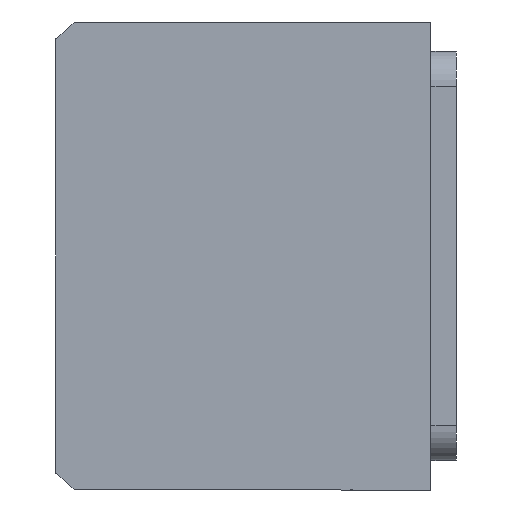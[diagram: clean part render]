
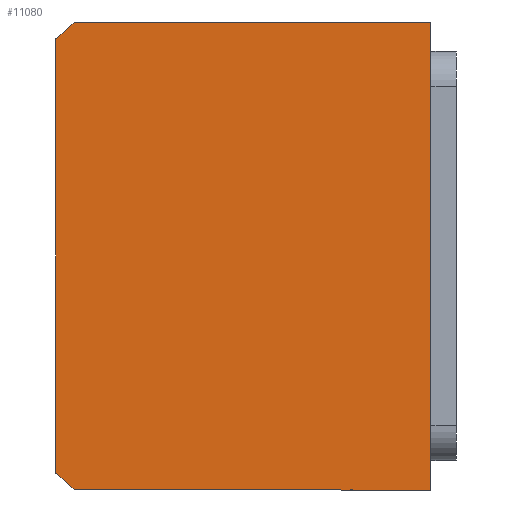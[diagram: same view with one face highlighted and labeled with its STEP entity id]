
A CAD part, front view. The second image highlights one B-rep face of the part: STEP entity #11080.
In plain terms, the highlighted planar face has unit normal (0, -1, 0) as drawn and (0, 0, -1) by its records, which use the part's own axes.
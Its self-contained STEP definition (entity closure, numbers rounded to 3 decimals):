
#245 = EDGE_CURVE ( 'NONE', #6919, #709, #9550, .T. ) ;
#346 = ORIENTED_EDGE ( 'NONE', *, *, #5847, .F. ) ;
#709 = VERTEX_POINT ( 'NONE', #9677 ) ;
#1515 = EDGE_CURVE ( 'NONE', #12056, #4558, #8215, .T. ) ;
#1618 = CARTESIAN_POINT ( 'NONE',  ( 0., 0., 0. ) ) ;
#2342 = LINE ( 'NONE', #7377, #2690 ) ;
#2408 = AXIS2_PLACEMENT_3D ( 'NONE', #1618, #9204, #2863 ) ;
#2612 = CARTESIAN_POINT ( 'NONE',  ( 0., -40.507, 0. ) ) ;
#2668 = ORIENTED_EDGE ( 'NONE', *, *, #12565, .F. ) ;
#2690 = VECTOR ( 'NONE', #12651, 1000. ) ;
#2705 = CARTESIAN_POINT ( 'NONE',  ( -40., -11.507, 0. ) ) ;
#2863 = DIRECTION ( 'NONE',  ( 1., 0., 0. ) ) ;
#2959 = CARTESIAN_POINT ( 'NONE',  ( -37.094, -75.507, 0. ) ) ;
#3202 = CARTESIAN_POINT ( 'NONE',  ( 40., -11.507, 0. ) ) ;
#3252 = VECTOR ( 'NONE', #8214, 1000. ) ;
#3702 = DIRECTION ( 'NONE',  ( 1., 0., 0. ) ) ;
#3764 = EDGE_CURVE ( 'NONE', #4558, #11126, #2342, .T. ) ;
#3869 = DIRECTION ( 'NONE',  ( 0., 0., 1. ) ) ;
#4490 = LINE ( 'NONE', #2705, #6647 ) ;
#4510 = CARTESIAN_POINT ( 'NONE',  ( -40., -11.507, 0. ) ) ;
#4558 = VERTEX_POINT ( 'NONE', #2959 ) ;
#4797 = CIRCLE ( 'NONE', #10134, 51. ) ;
#5659 = ORIENTED_EDGE ( 'NONE', *, *, #3764, .F. ) ;
#5776 = CARTESIAN_POINT ( 'NONE',  ( -40., -72.145, 0. ) ) ;
#5847 = EDGE_CURVE ( 'NONE', #10074, #12056, #4490, .T. ) ;
#6055 = EDGE_LOOP ( 'NONE', ( #12992, #346, #6794, #10958, #2668, #5659 ) ) ;
#6647 = VECTOR ( 'NONE', #9053, 1000. ) ;
#6794 = ORIENTED_EDGE ( 'NONE', *, *, #8565, .F. ) ;
#6805 = FACE_OUTER_BOUND ( 'NONE', #6055, .T. ) ;
#6919 = VERTEX_POINT ( 'NONE', #13490 ) ;
#7083 = PLANE ( 'NONE',  #2408 ) ;
#7377 = CARTESIAN_POINT ( 'NONE',  ( -40., -75.507, 0. ) ) ;
#7481 = VECTOR ( 'NONE', #9785, 1000. ) ;
#8116 = CARTESIAN_POINT ( 'NONE',  ( -40., -11.507, 0. ) ) ;
#8214 = DIRECTION ( 'NONE',  ( 0., 1., 0. ) ) ;
#8215 = CIRCLE ( 'NONE', #10848, 51. ) ;
#8565 = EDGE_CURVE ( 'NONE', #709, #10074, #10281, .T. ) ;
#9053 = DIRECTION ( 'NONE',  ( 0., -1., 0. ) ) ;
#9204 = DIRECTION ( 'NONE',  ( 0., 0., 1. ) ) ;
#9550 = LINE ( 'NONE', #3202, #3252 ) ;
#9677 = CARTESIAN_POINT ( 'NONE',  ( 40., -11.507, 0. ) ) ;
#9785 = DIRECTION ( 'NONE',  ( -1., 0., 0. ) ) ;
#10032 = DIRECTION ( 'NONE',  ( 0., 0., 1. ) ) ;
#10074 = VERTEX_POINT ( 'NONE', #8116 ) ;
#10134 = AXIS2_PLACEMENT_3D ( 'NONE', #10197, #3869, #11280 ) ;
#10197 = CARTESIAN_POINT ( 'NONE',  ( 0., -40.507, 0. ) ) ;
#10281 = LINE ( 'NONE', #4510, #7481 ) ;
#10848 = AXIS2_PLACEMENT_3D ( 'NONE', #2612, #10032, #3702 ) ;
#10958 = ORIENTED_EDGE ( 'NONE', *, *, #245, .F. ) ;
#11080 = ADVANCED_FACE ( 'NONE', ( #6805 ), #7083, .F. ) ;
#11126 = VERTEX_POINT ( 'NONE', #12452 ) ;
#11280 = DIRECTION ( 'NONE',  ( 1., 0., 0. ) ) ;
#12056 = VERTEX_POINT ( 'NONE', #5776 ) ;
#12452 = CARTESIAN_POINT ( 'NONE',  ( 37.094, -75.507, 0. ) ) ;
#12565 = EDGE_CURVE ( 'NONE', #11126, #6919, #4797, .T. ) ;
#12651 = DIRECTION ( 'NONE',  ( 1., 0., 0. ) ) ;
#12992 = ORIENTED_EDGE ( 'NONE', *, *, #1515, .F. ) ;
#13490 = CARTESIAN_POINT ( 'NONE',  ( 40., -72.145, 0. ) ) ;
